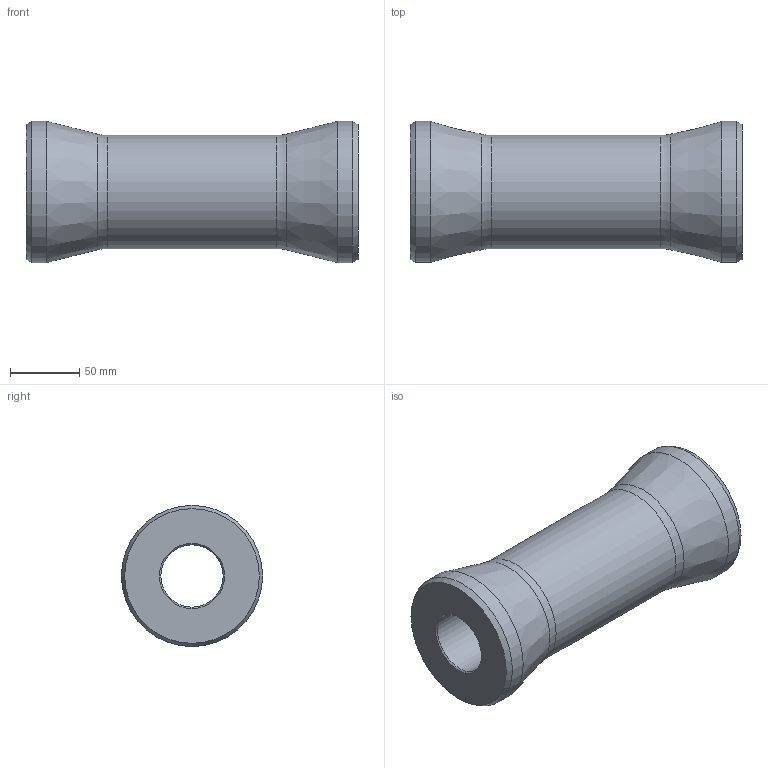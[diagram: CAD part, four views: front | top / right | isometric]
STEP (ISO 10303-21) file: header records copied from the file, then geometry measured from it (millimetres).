
FILE_DESCRIPTION(('STEP AP203'), '1');
FILE_NAME('Âòóëêà _ Ðû÷àã Lemken ID_39152 (4367460).01', '2023-05-03T12:33:32', ('factory'), (''), 'C3D Converter', 'C3D Toolkit', '');
FILE_SCHEMA(('CONFIG_CONTROL_DESIGN'));
Length unit declared in the file: millimetre
Products named in the file (1): Рычаг Lemken ID_39152 (4367460).01
Bounding box: 240 x 102 x 102 mm (x, y, z)
Volume: 1081098.5 mm3; surface area: 112735.1 mm2
Topology: 1 solids, 1 shells, 14 faces, 27 edges, 17 vertices
Faces by surface type: cone 6, cylinder 4, plane 2, torus 2
Full cylindrical faces by diameter (mm): 45 x1, 82 x1, 102 x2
Entity records: 464 total; most frequent: DIRECTION 60, CARTESIAN_POINT 47, AXIS2_PLACEMENT_3D 30, ORIENTED_EDGE 30, EDGE_LOOP 28, FACE_OUTER_BOUND 22, COLOUR_RGB 17, PRESENTATION_STYLE_ASSIGNMENT 17
